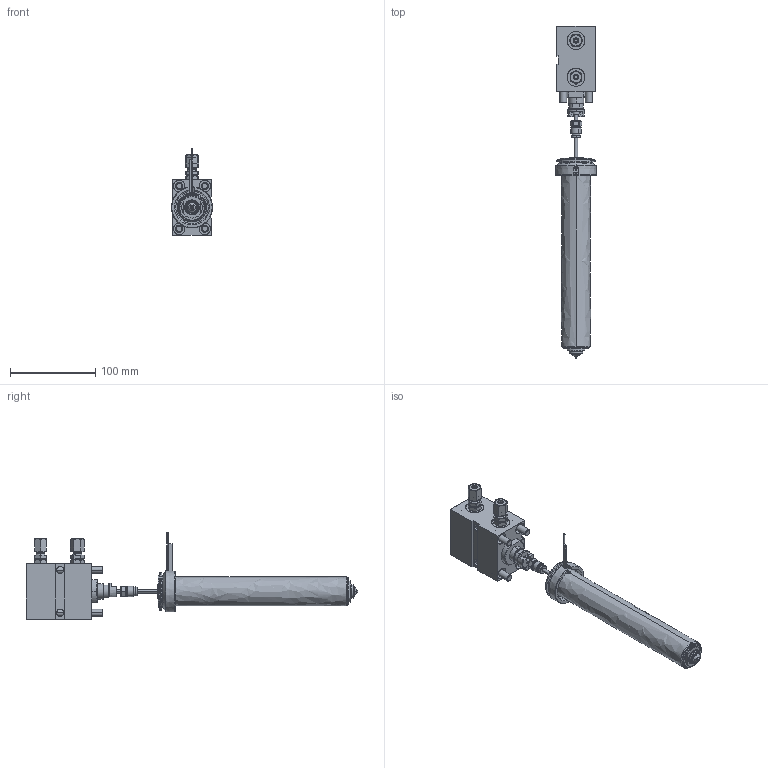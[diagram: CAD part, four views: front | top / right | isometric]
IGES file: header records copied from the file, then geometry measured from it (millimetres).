
Start section: Write IGES format                                    datakit 2008 (c)
Global section: file name: Unknown; native system: DATAKIT Converter; preprocessor: Unknown; author: Unknown; organization: Unknown; date: 950613.180003; units: millimetre
Bounding box: 47.98 x 388.5 x 101.12 mm (x, y, z)
Surface area: 176266.8 mm2 (no closed solid volume)
Topology: 0 solids, 0 shells, 748 faces, 3370 edges, 3356 vertices
Faces by surface type: revolution 472, bspline 276
